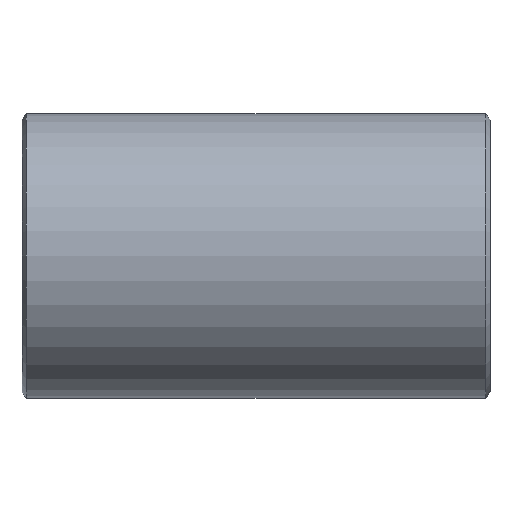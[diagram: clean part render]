
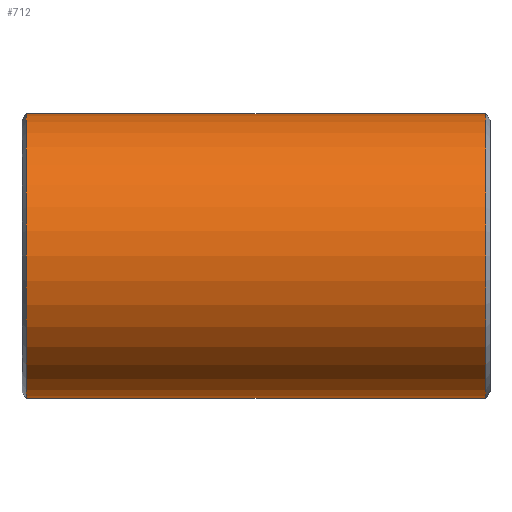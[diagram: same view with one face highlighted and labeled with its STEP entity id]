
A CAD part, front view. The second image highlights one B-rep face of the part: STEP entity #712.
In plain terms, the highlighted cylindrical face has radius 108.15 mm (diameter 216.3 mm), a partial arc.
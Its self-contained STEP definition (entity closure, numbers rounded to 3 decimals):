
#77 = DIRECTION ( 'NONE',  ( -1., 0., 0. ) ) ;
#108 = EDGE_CURVE ( 'NONE', #1030, #689, #837, .T. ) ;
#126 = DIRECTION ( 'NONE',  ( -1., 0., 0. ) ) ;
#141 = VERTEX_POINT ( 'NONE', #626 ) ;
#158 = ORIENTED_EDGE ( 'NONE', *, *, #584, .T. ) ;
#219 = AXIS2_PLACEMENT_3D ( 'NONE', #1113, #1341, #1242 ) ;
#239 = CARTESIAN_POINT ( 'NONE',  ( -174.678, 0., 0. ) ) ;
#266 = FACE_OUTER_BOUND ( 'NONE', #1352, .T. ) ;
#268 = AXIS2_PLACEMENT_3D ( 'NONE', #239, #780, #1094 ) ;
#292 = CARTESIAN_POINT ( 'NONE',  ( 174.678, 0., -108.15 ) ) ;
#309 = EDGE_CURVE ( 'NONE', #1023, #1143, #381, .T. ) ;
#326 = DIRECTION ( 'NONE',  ( -1., 0., 0. ) ) ;
#377 = AXIS2_PLACEMENT_3D ( 'NONE', #698, #812, #1258 ) ;
#381 = CIRCLE ( 'NONE', #219, 108.15 ) ;
#430 = DIRECTION ( 'NONE',  ( -1., 0., 0. ) ) ;
#475 = CARTESIAN_POINT ( 'NONE',  ( -174.678, 0., -108.15 ) ) ;
#482 = LINE ( 'NONE', #535, #856 ) ;
#483 = ORIENTED_EDGE ( 'NONE', *, *, #1191, .F. ) ;
#488 = ORIENTED_EDGE ( 'NONE', *, *, #929, .T. ) ;
#513 = CARTESIAN_POINT ( 'NONE',  ( 177.8, 0., -108.15 ) ) ;
#535 = CARTESIAN_POINT ( 'NONE',  ( 177.8, 0., -108.15 ) ) ;
#541 = ORIENTED_EDGE ( 'NONE', *, *, #108, .F. ) ;
#550 = CARTESIAN_POINT ( 'NONE',  ( 0., 0., 108.15 ) ) ;
#584 = EDGE_CURVE ( 'NONE', #1143, #1203, #710, .T. ) ;
#626 = CARTESIAN_POINT ( 'NONE',  ( -174.678, 0., 108.15 ) ) ;
#674 = CIRCLE ( 'NONE', #268, 108.15 ) ;
#689 = VERTEX_POINT ( 'NONE', #475 ) ;
#698 = CARTESIAN_POINT ( 'NONE',  ( 177.8, 0., 0. ) ) ;
#710 = LINE ( 'NONE', #798, #1369 ) ;
#712 = ADVANCED_FACE ( 'NONE', ( #266 ), #804, .T. ) ;
#742 = CARTESIAN_POINT ( 'NONE',  ( 0., 0., -108.15 ) ) ;
#751 = LINE ( 'NONE', #980, #1216 ) ;
#769 = ORIENTED_EDGE ( 'NONE', *, *, #1270, .F. ) ;
#780 = DIRECTION ( 'NONE',  ( -1., 0., 0. ) ) ;
#798 = CARTESIAN_POINT ( 'NONE',  ( 177.8, 0., 108.15 ) ) ;
#804 = CYLINDRICAL_SURFACE ( 'NONE', #377, 108.15 ) ;
#812 = DIRECTION ( 'NONE',  ( -1., 0., 0. ) ) ;
#837 = LINE ( 'NONE', #513, #904 ) ;
#856 = VECTOR ( 'NONE', #126, 1000. ) ;
#904 = VECTOR ( 'NONE', #326, 1000. ) ;
#929 = EDGE_CURVE ( 'NONE', #1203, #141, #751, .T. ) ;
#980 = CARTESIAN_POINT ( 'NONE',  ( 177.8, 0., 108.15 ) ) ;
#1023 = VERTEX_POINT ( 'NONE', #292 ) ;
#1030 = VERTEX_POINT ( 'NONE', #742 ) ;
#1094 = DIRECTION ( 'NONE',  ( 0., 0., 1. ) ) ;
#1113 = CARTESIAN_POINT ( 'NONE',  ( 174.678, 0., 0. ) ) ;
#1136 = ORIENTED_EDGE ( 'NONE', *, *, #309, .T. ) ;
#1143 = VERTEX_POINT ( 'NONE', #1316 ) ;
#1191 = EDGE_CURVE ( 'NONE', #689, #141, #674, .T. ) ;
#1203 = VERTEX_POINT ( 'NONE', #550 ) ;
#1216 = VECTOR ( 'NONE', #430, 1000. ) ;
#1242 = DIRECTION ( 'NONE',  ( 0., 0., 1. ) ) ;
#1258 = DIRECTION ( 'NONE',  ( 0., 0., 1. ) ) ;
#1270 = EDGE_CURVE ( 'NONE', #1023, #1030, #482, .T. ) ;
#1316 = CARTESIAN_POINT ( 'NONE',  ( 174.678, 0., 108.15 ) ) ;
#1341 = DIRECTION ( 'NONE',  ( -1., 0., 0. ) ) ;
#1352 = EDGE_LOOP ( 'NONE', ( #769, #1136, #158, #488, #483, #541 ) ) ;
#1369 = VECTOR ( 'NONE', #77, 1000. ) ;
